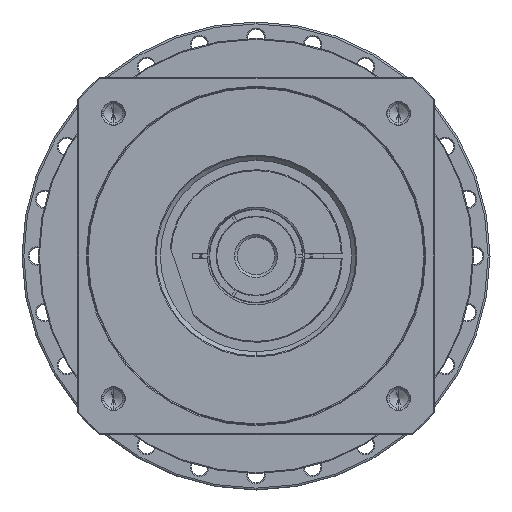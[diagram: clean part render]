
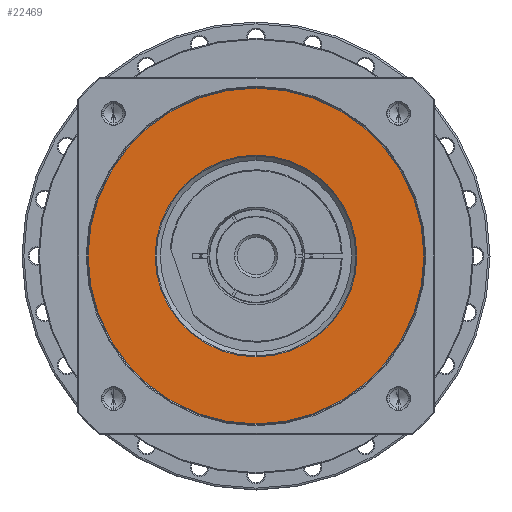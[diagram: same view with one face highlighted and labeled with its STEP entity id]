
A CAD part, left-side view. The second image highlights one B-rep face of the part: STEP entity #22469.
In plain terms, the highlighted planar face has unit normal (-1, 0, 0) as drawn and (0, 0, 1) by its records, which use the part's own axes.
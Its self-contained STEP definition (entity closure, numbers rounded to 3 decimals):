
#21154=CARTESIAN_POINT('',(0.,0.,36.));
#21155=DIRECTION('',(0.,0.,-1.));
#21156=DIRECTION('',(0.,-1.,0.));
#21157=AXIS2_PLACEMENT_3D('',#21154,#21155,#21156);
#21159=CARTESIAN_POINT('',(0.,0.,36.));
#21160=DIRECTION('',(0.,0.,-1.));
#21161=DIRECTION('',(0.,1.,0.));
#21162=AXIS2_PLACEMENT_3D('',#21159,#21160,#21161);
#21164=CARTESIAN_POINT('',(0.,0.,
36.));
#21165=DIRECTION('',(0.,0.,-1.));
#21166=DIRECTION('',(1.,0.,0.));
#21167=AXIS2_PLACEMENT_3D('',#21164,#21165,#21166);
#21169=CARTESIAN_POINT('',(0.,0.,36.));
#21170=DIRECTION('',(0.,0.,-1.));
#21171=DIRECTION('',(-1.,0.,0.));
#21172=AXIS2_PLACEMENT_3D('',#21169,#21170,#21171);
#21753=CARTESIAN_POINT('',(0.,-89.5,36.));
#21754=CARTESIAN_POINT('',(0.,89.5,36.));
#21755=VERTEX_POINT('',#21753);
#21756=VERTEX_POINT('',#21754);
#21789=CARTESIAN_POINT('',(53.75,0.,36.));
#21790=CARTESIAN_POINT('',(-53.75,0.,
36.));
#21791=VERTEX_POINT('',#21789);
#21792=VERTEX_POINT('',#21790);
#22453=CARTESIAN_POINT('',(0.,0.,36.));
#22454=DIRECTION('',(0.,0.,-1.));
#22455=DIRECTION('',(0.,-1.,0.));
#22456=AXIS2_PLACEMENT_3D('',#22453,#22454,#22455);
#22457=PLANE('',#22456);
#22459=ORIENTED_EDGE('',*,*,#22458,.T.);
#22460=ORIENTED_EDGE('',*,*,#22443,.T.);
#22461=EDGE_LOOP('',(#22459,#22460));
#22462=FACE_OUTER_BOUND('',#22461,.F.);
#22464=ORIENTED_EDGE('',*,*,#22463,.F.);
#22466=ORIENTED_EDGE('',*,*,#22465,.F.);
#22467=EDGE_LOOP('',(#22464,#22466));
#22468=FACE_BOUND('',#22467,.F.);
#22469=ADVANCED_FACE('',(#22462,#22468),#22457,.F.);
#21158=CIRCLE('',#21157,89.5);
#21163=CIRCLE('',#21162,89.5);
#21168=CIRCLE('',#21167,53.75);
#21173=CIRCLE('',#21172,53.75);
#22443=EDGE_CURVE('',#21756,#21755,#21163,.T.);
#22458=EDGE_CURVE('',#21755,#21756,#21158,.T.);
#22463=EDGE_CURVE('',#21791,#21792,#21168,.T.);
#22465=EDGE_CURVE('',#21792,#21791,#21173,.T.);
